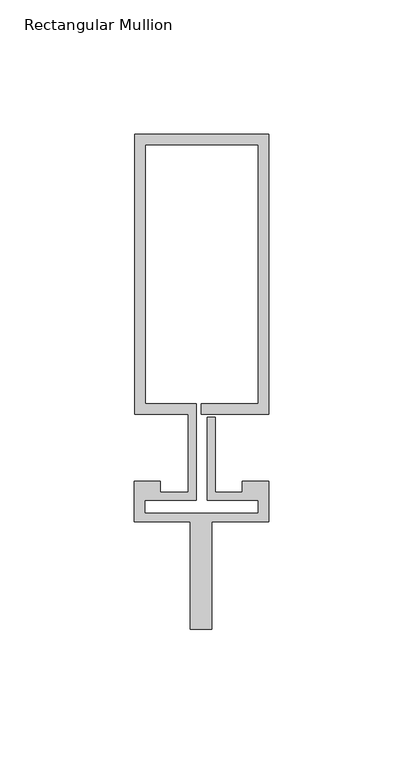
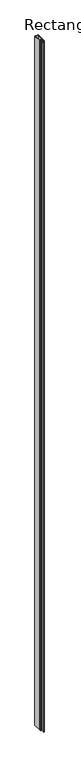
"""IFC4 building model written with IfcOpenShell, lengths in millimetres: member geometry, Rectangular Mullion : Reynaers_CW-50_Mullion-Transom_Vertical_104.5mm_Facecap-06B."""

from ifc_helpers import new_model, si_unit, frame, origin, place, context, project, spatial, polyline, outline, extrude, source, transform, mapped, element, save


def rectangular_mullion_d1cd4afd(model_context):
    return source(origin(), model_context, "Body", "SweptSolid", [
        extrude(outline(polyline([(-24.8004059, 117.0), (25.1995941, 117.0), (25.1995941, 12.5), (0.0, 12.5), (0.0, 16.5), (21.1995941, 16.5), (21.1995941, 113.0), (-20.8004059, 113.0), (-20.8004059, 16.5), (-1.9004059, 16.5), (-1.9004059, -19.5), (-20.994845, -19.5), (-20.994845, -24.4191338), (21.1995941, -24.4191338), (21.1995941, -19.5), (2.2995941, -19.5), (2.2995941, 11.5), (5.2995941, 11.5), (5.2995941, -16.5), (15.2996495, -16.5), (15.2996495, -12.5), (25.1995941, -12.5), (25.1995941, -27.5), (4.004855, -27.5), (4.004855, -67.5), (-3.995145, -67.5), (-3.995145, -27.5), (-24.994845, -27.5), (-24.994845, -12.5), (-15.2996495, -12.5), (-15.2996495, -16.5), (-4.9004059, -16.5), (-4.9004059, 12.5), (-24.8004059, 12.5), (-24.8004059, 117.0)])), frame((0.0, 0.0, -10400.0), z_axis=(0.0, 0.0, 1.0), x_axis=(1.0, 0.0, 0.0)), (0.0, 0.0, 1.0), 10400.0),
    ])


if __name__ == "__main__":
    model = new_model("IFC4")
    model_context = context("Model", 3, world=origin())
    ifc_project = project(units=[si_unit("LENGTHUNIT", "METRE", prefix="MILLI")], contexts=[model_context])
    site = spatial("IfcSite", under=ifc_project)
    building = spatial("IfcBuilding", under=site)
    placement = place(None, origin())
    rectangular_mullion_shape = rectangular_mullion_d1cd4afd(model_context)
    element("IfcMember", 1, ObjectType="Rectangular Mullion : Reynaers_CW-50_Mullion-Transom_Vertical_104.5mm_Facecap-06B", at=placement, inside=building, context=model_context, shape_type="MappedRepresentation", body=[
        mapped(rectangular_mullion_shape, transform((0.0, 0.0, 0.0), x_axis=(1.0, 0.0, 0.0), y_axis=(0.0, 1.0, 0.0), z_axis=(0.0, 0.0, 1.0))),
    ])
    save(model, "model.ifc")
